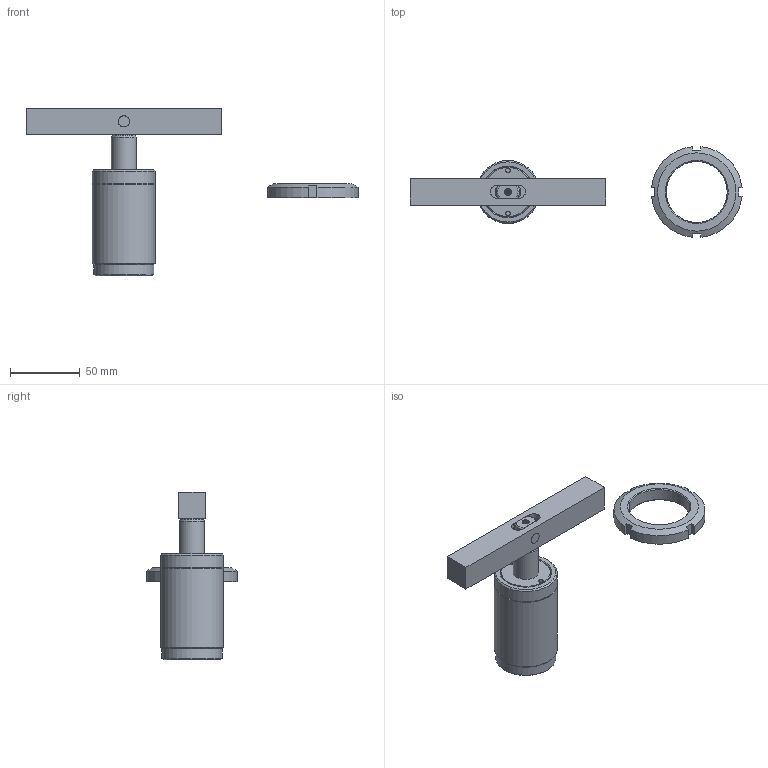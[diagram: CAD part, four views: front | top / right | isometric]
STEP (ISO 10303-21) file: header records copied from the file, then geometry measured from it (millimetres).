
FILE_DESCRIPTION(/* description */ ('Unknown'),/* implementation_level */ '2;1');
FILE_NAME(/* name */ 'HSC-TB25D-B',/* time_stamp */ '2022-08-26T04:15:18+08:00',/* author */ ('Unknown'),/* organization */ ('Unknown'),/* preprocessor_version */ 'ST-DEVELOPER v16.7',/* originating_system */ 'DEX',/* authorisation */ $);
FILE_SCHEMA (('AUTOMOTIVE_DESIGN {1 0 10303 214 3 1 1}'));
Length unit declared in the file: millimetre
Products named in the file (6): HSC-TB25D-B; HSC-2502-D-AXLE CENTRE; HSC-2502-D-FIXED PIN; HSC-25D-B; HSC-TB25-Nut; HSC-TB25D-CYLINDER
Assembly tree (5 placements, depth 2):
  HSC-TB25D-B
    HSC-2502-D-AXLE CENTRE
    HSC-2502-D-FIXED PIN
    HSC-25D-B
    HSC-TB25-Nut
    HSC-TB25D-CYLINDER
Bounding box: 237.36 x 64.72 x 120 mm (x, y, z)
Volume: 179482.3 mm3; surface area: 43898.7 mm2
Topology: 5 solids, 5 shells, 105 faces, 224 edges, 139 vertices
Faces by surface type: plane 48, cylinder 24, cone 17, bspline 12, torus 4
Full cylindrical faces by diameter (mm): 3.2 x2, 8 x4, 9.147 x2, 18 x1, 18.001 x1, 24.601 x1, 25 x1, 43 x1, 43.5 x1, 45 x2
Entity records: 3169 total; most frequent: CARTESIAN_POINT 661, DIRECTION 418, ORIENTED_EDGE 356, EDGE_CURVE 178, AXIS2_PLACEMENT_3D 175, EDGE_LOOP 160, FACE_BOUND 160, VERTEX_POINT 128
